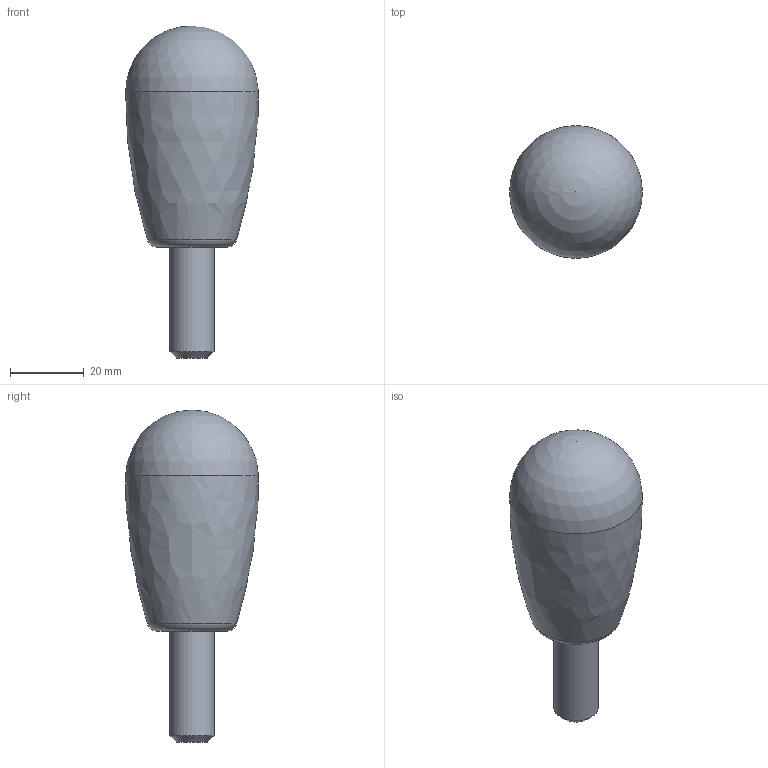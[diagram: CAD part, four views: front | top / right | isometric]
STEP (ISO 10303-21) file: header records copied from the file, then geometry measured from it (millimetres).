
FILE_DESCRIPTION( ('This file contains a STEP AP42 implementation' ,'as created by ZW3D STEP Interface translator.') ,'2;1' );
FILE_NAME( 'Galka owalna A 36.12.S.stp' ,'26 813. 734 6', (''), ('ZWCAD Software Co.'), 'Version 1.0', 'ZW3D to STEP translator', '' );
FILE_SCHEMA(('AP242_MANAGED_MODEL_BASED_3D_ENGINEERING_MIM_LF { 1 0 10303 442 1 1 4 }'));
Length unit declared in the file: millimetre
Products named in the file (1): 0
Bounding box: 36 x 36 x 90 mm (x, y, z)
Volume: 49352.8 mm3; surface area: 11832.3 mm2
Topology: 2 solids, 2 shells, 24 faces, 51 edges, 33 vertices
Faces by surface type: plane 18, cylinder 2, sphere 1, bspline 1, torus 1, cone 1
Full cylindrical faces by diameter (mm): 12 x2
Entity records: 708 total; most frequent: CARTESIAN_POINT 134, DIRECTION 109, ORIENTED_EDGE 100, EDGE_CURVE 50, VECTOR 39, LINE 39, AXIS2_PLACEMENT_3D 35, VERTEX_POINT 33
